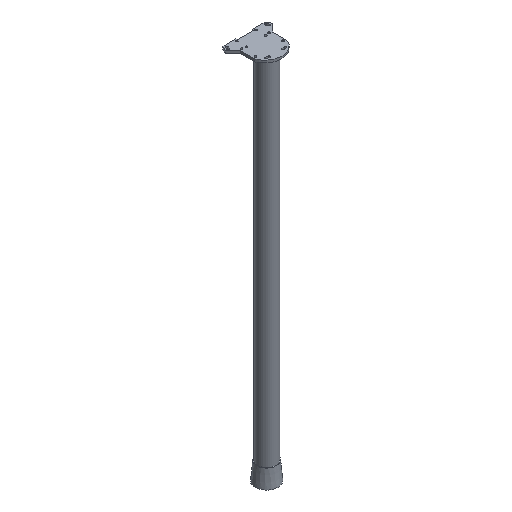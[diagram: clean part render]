
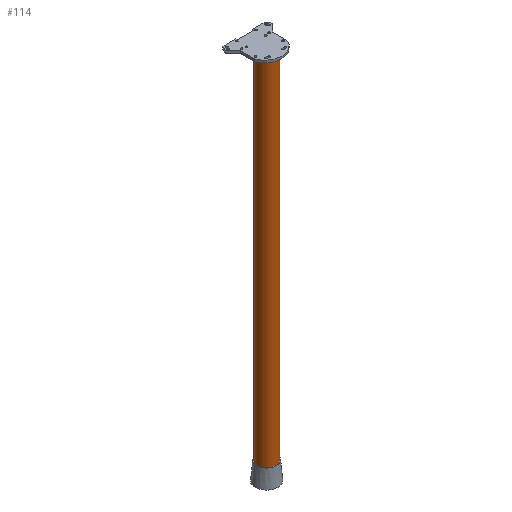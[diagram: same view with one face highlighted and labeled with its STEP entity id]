
A CAD part, isometric view. The second image highlights one B-rep face of the part: STEP entity #114.
In plain terms, the highlighted cylindrical face has radius 30 mm (diameter 60 mm), a full revolution.
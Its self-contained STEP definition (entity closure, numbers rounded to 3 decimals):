
#114 = ADVANCED_FACE( '', ( #256, #257 ), #258, .T. );
#256 = FACE_OUTER_BOUND( '', #425, .T. );
#257 = FACE_OUTER_BOUND( '', #426, .T. );
#258 = CYLINDRICAL_SURFACE( '', #427, 30. );
#425 = EDGE_LOOP( '', ( #713 ) );
#426 = EDGE_LOOP( '', ( #714 ) );
#427 = AXIS2_PLACEMENT_3D( '', #715, #716, #717 );
#713 = ORIENTED_EDGE( '', *, *, #982, .T. );
#714 = ORIENTED_EDGE( '', *, *, #902, .F. );
#715 = CARTESIAN_POINT( '', ( 0., 0., -1171.5 ) );
#716 = DIRECTION( '', ( 0., 0., -1. ) );
#717 = DIRECTION( '', ( 1., 0., 0. ) );
#902 = EDGE_CURVE( '', #1069, #1069, #1070, .T. );
#982 = EDGE_CURVE( '', #1193, #1193, #1194, .T. );
#1069 = VERTEX_POINT( '', #1303 );
#1070 = CIRCLE( '', #1304, 30. );
#1193 = VERTEX_POINT( '', #1468 );
#1194 = CIRCLE( '', #1469, 30. );
#1303 = CARTESIAN_POINT( '', ( 30., 0., -8. ) );
#1304 = AXIS2_PLACEMENT_3D( '', #1569, #1570, #1571 );
#1468 = CARTESIAN_POINT( '', ( 30., 0., -1171.5 ) );
#1469 = AXIS2_PLACEMENT_3D( '', #1673, #1674, #1675 );
#1569 = CARTESIAN_POINT( '', ( 0., 0., -8. ) );
#1570 = DIRECTION( '', ( 0., 0., 1. ) );
#1571 = DIRECTION( '', ( 1., 0., 0. ) );
#1673 = CARTESIAN_POINT( '', ( 0., 0., -1171.5 ) );
#1674 = DIRECTION( '', ( 0., 0., 1. ) );
#1675 = DIRECTION( '', ( 1., 0., 0. ) );
